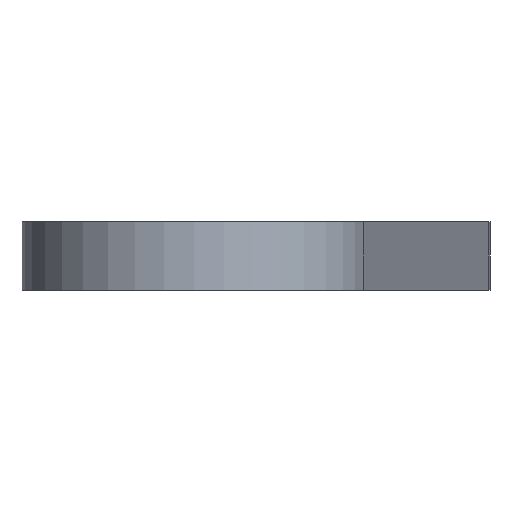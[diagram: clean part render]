
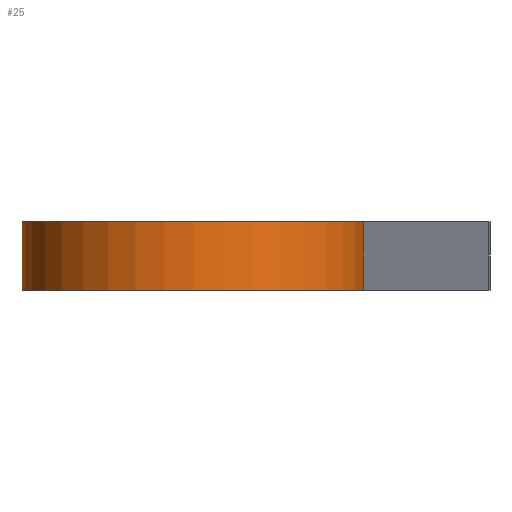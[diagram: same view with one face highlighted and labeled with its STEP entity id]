
A CAD part, front view. The second image highlights one B-rep face of the part: STEP entity #25.
In plain terms, the highlighted cylindrical face has radius 24.975 mm (diameter 49.95 mm), a partial arc.
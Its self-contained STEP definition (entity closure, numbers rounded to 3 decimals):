
#25 = ADVANCED_FACE ( 'NONE', ( #827 ), #5271, .T. ) ;
#827 = FACE_OUTER_BOUND ( 'NONE', #3309, .T. ) ;
#1070 = EDGE_CURVE ( 'NONE', #3043, #5854, #7511, .T. ) ;
#1394 = DIRECTION ( 'NONE',  ( 0., 0., 1. ) ) ;
#1423 = VECTOR ( 'NONE', #5281, 1000. ) ;
#1428 = CARTESIAN_POINT ( 'NONE',  ( 0., 0., -5. ) ) ;
#1659 = LINE ( 'NONE', #2473, #1423 ) ;
#1902 = CARTESIAN_POINT ( 'NONE',  ( 24.594, -4.344, -5. ) ) ;
#2132 = DIRECTION ( 'NONE',  ( 0., 0., 1. ) ) ;
#2473 = CARTESIAN_POINT ( 'NONE',  ( -24.975, 0., 5. ) ) ;
#2879 = DIRECTION ( 'NONE',  ( 0., 0., -1. ) ) ;
#2995 = ORIENTED_EDGE ( 'NONE', *, *, #6305, .T. ) ;
#3043 = VERTEX_POINT ( 'NONE', #4511 ) ;
#3309 = EDGE_LOOP ( 'NONE', ( #8484, #2995, #6371, #6689 ) ) ;
#3544 = CARTESIAN_POINT ( 'NONE',  ( 0., 0., 5. ) ) ;
#3653 = DIRECTION ( 'NONE',  ( 0., 0., -1. ) ) ;
#4511 = CARTESIAN_POINT ( 'NONE',  ( -24.975, 0., -5. ) ) ;
#5271 = CYLINDRICAL_SURFACE ( 'NONE', #7341, 24.975 ) ;
#5281 = DIRECTION ( 'NONE',  ( 0., 0., -1. ) ) ;
#5309 = EDGE_CURVE ( 'NONE', #6400, #6058, #8132, .T. ) ;
#5539 = LINE ( 'NONE', #6550, #5765 ) ;
#5739 = DIRECTION ( 'NONE',  ( 1., 0., 0. ) ) ;
#5747 = DIRECTION ( 'NONE',  ( 1., 0., 0. ) ) ;
#5765 = VECTOR ( 'NONE', #2879, 1000. ) ;
#5854 = VERTEX_POINT ( 'NONE', #1902 ) ;
#6058 = VERTEX_POINT ( 'NONE', #7282 ) ;
#6305 = EDGE_CURVE ( 'NONE', #6400, #3043, #1659, .T. ) ;
#6371 = ORIENTED_EDGE ( 'NONE', *, *, #1070, .T. ) ;
#6400 = VERTEX_POINT ( 'NONE', #8230 ) ;
#6550 = CARTESIAN_POINT ( 'NONE',  ( 24.594, -4.344, 5. ) ) ;
#6689 = ORIENTED_EDGE ( 'NONE', *, *, #6728, .F. ) ;
#6728 = EDGE_CURVE ( 'NONE', #6058, #5854, #5539, .T. ) ;
#7282 = CARTESIAN_POINT ( 'NONE',  ( 24.594, -4.344, 5. ) ) ;
#7341 = AXIS2_PLACEMENT_3D ( 'NONE', #8692, #3653, #7904 ) ;
#7511 = CIRCLE ( 'NONE', #8569, 24.975 ) ;
#7904 = DIRECTION ( 'NONE',  ( -1., 0., 0. ) ) ;
#8132 = CIRCLE ( 'NONE', #9180, 24.975 ) ;
#8230 = CARTESIAN_POINT ( 'NONE',  ( -24.975, 0., 5. ) ) ;
#8484 = ORIENTED_EDGE ( 'NONE', *, *, #5309, .F. ) ;
#8569 = AXIS2_PLACEMENT_3D ( 'NONE', #1428, #1394, #5747 ) ;
#8692 = CARTESIAN_POINT ( 'NONE',  ( 0., 0., 5. ) ) ;
#9180 = AXIS2_PLACEMENT_3D ( 'NONE', #3544, #2132, #5739 ) ;
